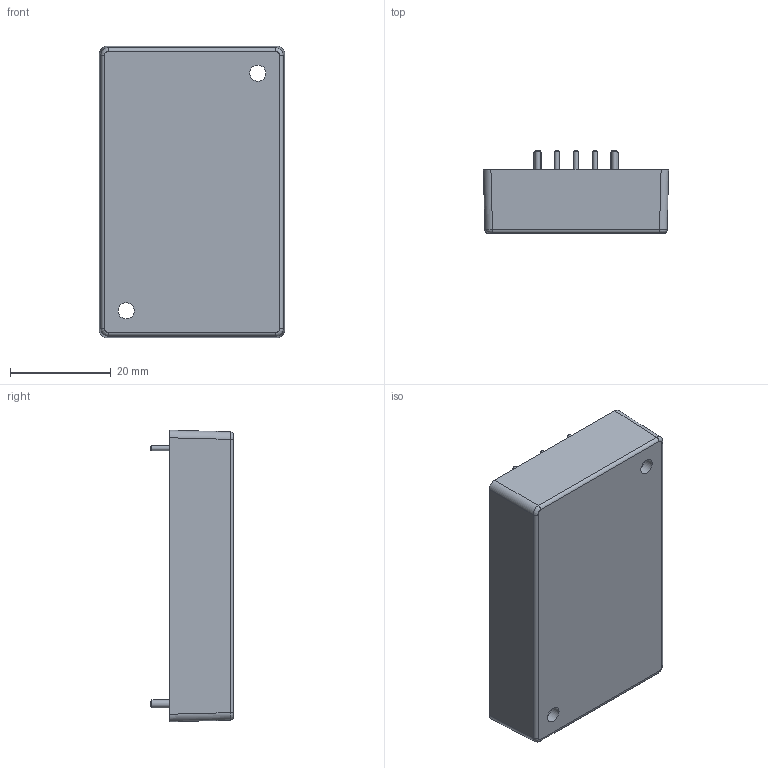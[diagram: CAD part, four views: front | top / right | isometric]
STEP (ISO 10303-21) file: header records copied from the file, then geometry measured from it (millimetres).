
FILE_DESCRIPTION (( 'STEP AP214' ), '1' );
FILE_NAME ('THM60WI.STEP', '2020-07-16T00:36:06', ( 'user' ), ( '' ), 'SwSTEP 2.0', 'SolidWorks 2016', '' );
FILE_SCHEMA (( 'AUTOMOTIVE_DESIGN' ));
Length unit declared in the file: millimetre
Products named in the file (2): THM60WI
Bounding box: 36.8 x 16.5 x 57.9 mm (x, y, z)
Volume: 25252.5 mm3; surface area: 11606.4 mm2
Topology: 1 solids, 1 shells, 372 faces, 1022 edges, 678 vertices
Faces by surface type: plane 307, cone 31, cylinder 28, bspline 6
Full cylindrical faces by diameter (mm): 1 x6, 1.6 x2, 3.2 x2, 3.25 x2
Entity records: 12549 total; most frequent: CARTESIAN_POINT 2404, ORIENTED_EDGE 1956, DIRECTION 1782, EDGE_CURVE 978, LINE 838, VECTOR 838, VERTEX_POINT 666, AXIS2_PLACEMENT_3D 472
